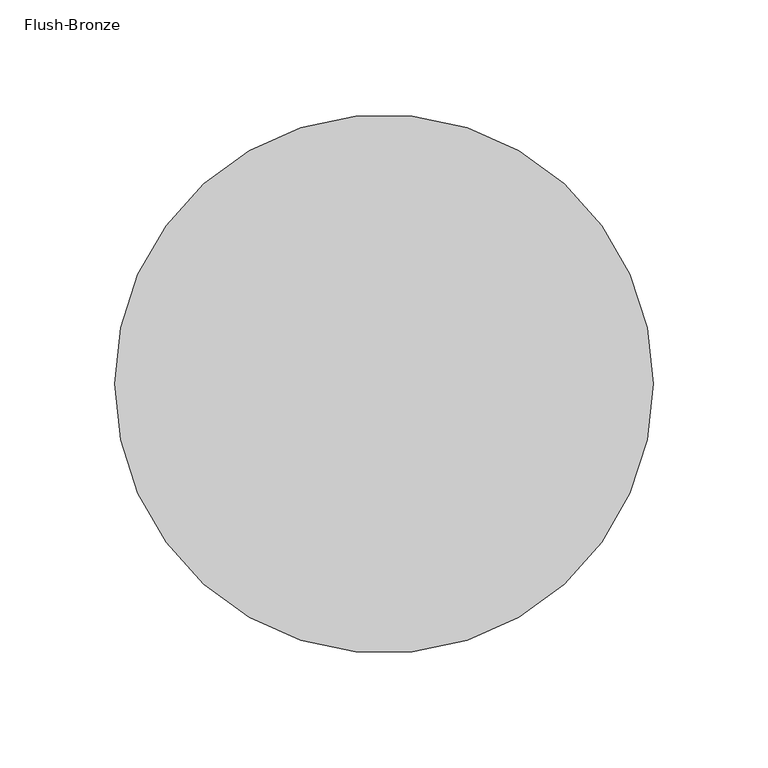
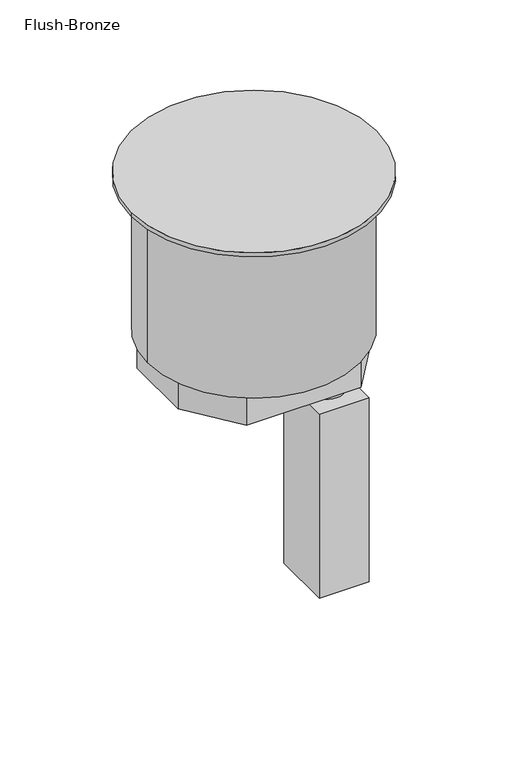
"""IFC4 building model written with IfcOpenShell, lengths in millimetres: proxy geometry, Poke_Thru_Device-Evolution_8AT_Series-Wiremold-Assembly : Flush-Bronze."""

from ifc_helpers import new_model, si_unit, point, frame, frame_2d, origin, origin_with_axes, origin_2d, place, context, project, spatial, polyline, circle_curve, trimmed, segment, composite_curve, outline, extrude, source, transform, mapped, element, save
from ifc_brep_helpers import plane_surface, cylinder_surface, revolved_surface, advanced_brep


def flush_bronze_83a69dee(model_context):
    return source(origin(), model_context, "Body", "SolidModel", [
        extrude(outline(composite_curve([segment(trimmed(circle_curve(origin_2d(), 117.475), [point((117.475, 0.0))], [point((-117.475, 0.0))], False, "CARTESIAN"), True, "CONTINUOUS"), segment(trimmed(circle_curve(origin_2d(), 117.475), [point((-117.475, 0.0))], [point((117.475, 0.0))], False, "CARTESIAN"), True, "CONTINUOUS")], self_intersect=False)), origin_with_axes(), (0.0, 0.0, 1.0), 4.318),
        advanced_brep(
        [(95.25, 0.0, -6.35), (-95.25, 0.0, -6.35), (-101.6, 0.0, -153.67), (101.6, 0.0, -153.67), (101.6, 0.0, -6.35), (-101.6, 0.0, -6.35), (-101.6, 0.0, 0.0), (101.6, 0.0, 0.0), (-95.25, 0.0, 0.0), (95.25, 0.0, 0.0)],
        [
            (0, 1, circle_curve(frame((0.0, 0.0, -6.35), z_axis=(0.0, 0.0, 1.0), x_axis=(1.0, 0.0, 0.0)), 95.25)),
            (1, 0, circle_curve(frame((0.0, 0.0, -6.35), z_axis=(0.0, 0.0, 1.0), x_axis=(1.0, 0.0, 0.0)), 95.25)),
            (2, 3, circle_curve(frame((0.0, 0.0, -153.67), z_axis=(0.0, 0.0, -1.0), x_axis=(1.0, 0.0, 0.0)), 101.6)),
            (3, 2, circle_curve(frame((0.0, 0.0, -153.67), z_axis=(0.0, 0.0, -1.0), x_axis=(1.0, 0.0, 0.0)), 101.6)),
            (3, 4),
            (4, 5, circle_curve(frame((0.0, 0.0, -6.35), z_axis=(0.0, 0.0, -1.0), x_axis=(1.0, 0.0, 0.0)), 101.6)),
            (5, 2),
            (5, 4, circle_curve(frame((0.0, 0.0, -6.35), z_axis=(0.0, 0.0, -1.0), x_axis=(1.0, 0.0, 0.0)), 101.6)),
            (6, 7, circle_curve(origin_with_axes(), 101.6)),
            (7, 6, circle_curve(origin_with_axes(), 101.6)),
            (8, 9, circle_curve(frame((0.0, 0.0, 0.0), z_axis=(0.0, 0.0, -1.0), x_axis=(1.0, 0.0, 0.0)), 95.25)),
            (9, 8, circle_curve(frame((0.0, 0.0, 0.0), z_axis=(0.0, 0.0, -1.0), x_axis=(1.0, 0.0, 0.0)), 95.25)),
            (6, 5),
            (4, 7),
            (8, 1),
            (0, 9),
        ],
        [
            plane_surface(frame((101.6, 0.0, -6.35), z_axis=(0.0, 0.0, 1.0), x_axis=(0.0, 1.0, 0.0))),
            plane_surface(frame((101.6, 0.0, -153.67), z_axis=(0.0, 0.0, -1.0), x_axis=(0.0, -1.0, 0.0))),
            cylinder_surface(frame((0.0, 0.0, -153.67), z_axis=(0.0, 0.0, 1.0), x_axis=(1.0, 0.0, 0.0)), 101.6),
            plane_surface(frame((101.6, 0.0, 0.0), z_axis=(0.0, 0.0, 1.0), x_axis=(0.0, 1.0, 0.0))),
            cylinder_surface(frame((0.0, 0.0, -6.35), z_axis=(0.0, 0.0, 1.0), x_axis=(1.0, 0.0, 0.0)), 101.6),
            revolved_surface(polyline([(95.25, 0.0, -6.35), (95.25, 0.0, 0.0)]), (0.0, 0.0, 0.0), (0.0, 0.0, -1.0)),
        ],
        [
            (0, [[1, 2]]),
            (1, [[3, 4]]),
            (2, [[-4, 5, 6, 7]]),
            (2, [[-3, -7, 8, -5]]),
            (3, [[9, 10], [11, 12]]),
            (4, [[-9, 13, -6, 14]]),
            (4, [[-10, -14, -8, -13]]),
            (5, [[-11, 15, -1, 16]]),
            (5, [[-12, -16, -2, -15]]),
        ],
    ),
        extrude(outline(polyline([(54.61, 82.55), (92.075, 34.036), (92.075, -34.036), (54.61, -82.55), (-54.61, -82.55), (-92.075, -34.036), (-92.075, 34.036), (-54.61, 82.55), (54.61, 82.55)])), frame((0.0, 0.0, -182.88), z_axis=(0.0, 0.0, 1.0), x_axis=(1.0, 0.0, 0.0)), (0.0, 0.0, 1.0), 29.21),
        extrude(outline(composite_curve([segment(trimmed(circle_curve(frame_2d((69.469, -0.229668)), 11.1252), [point((58.3438, -0.229668))], [point((80.5942, -0.229668))], False, "CARTESIAN"), True, "CONTINUOUS"), segment(trimmed(circle_curve(frame_2d((69.469, -0.229668)), 11.1252), [point((80.5942, -0.229668))], [point((58.3438, -0.229668))], False, "CARTESIAN"), True, "CONTINUOUS")], self_intersect=False)), frame((0.0, 0.0, -218.7956), z_axis=(0.0, 0.0, 1.0), x_axis=(1.0, 0.0, 0.0)), (0.0, 0.0, 1.0), 35.9156),
        extrude(outline(composite_curve([segment(trimmed(circle_curve(frame_2d((69.469, -0.229668)), 16.0528), [point((53.4162, -0.229668))], [point((85.5218, -0.229668))], False, "CARTESIAN"), True, "CONTINUOUS"), segment(trimmed(circle_curve(frame_2d((69.469, -0.229668)), 16.0528), [point((85.5218, -0.229668))], [point((53.4162, -0.229668))], False, "CARTESIAN"), True, "CONTINUOUS")], self_intersect=False)), frame((0.0, 0.0, -239.1156), z_axis=(0.0, 0.0, 1.0), x_axis=(1.0, 0.0, 0.0)), (0.0, 0.0, 1.0), 20.32),
        extrude(outline(polyline([(93.2688, 28.980332), (93.2688, -29.439668), (45.6692, -29.439668), (45.6692, 28.980332), (93.2688, 28.980332)])), frame((0.0, 0.0, -425.45), z_axis=(0.0, 0.0, 1.0), x_axis=(1.0, 0.0, 0.0)), (0.0, 0.0, 1.0), 186.3344),
    ])


if __name__ == "__main__":
    model = new_model("IFC4")
    model_context = context("Model", 3, world=origin())
    ifc_project = project(units=[si_unit("LENGTHUNIT", "METRE", prefix="MILLI")], contexts=[model_context])
    site = spatial("IfcSite", under=ifc_project)
    building = spatial("IfcBuilding", under=site)
    placement = place(None, origin())
    flush_bronze_shape = flush_bronze_83a69dee(model_context)
    element("IfcBuildingElementProxy", 1, Name="Poke_Thru_Device-Evolution_8AT_Series-Wiremold-Assembly : Flush-Bronze", ObjectType="Poke_Thru_Device-Evolution_8AT_Series-Wiremold-Assembly : Flush-Bronze", at=placement, inside=building, context=model_context, shape_type="MappedRepresentation", body=[
        mapped(flush_bronze_shape, transform((0.0, 0.0, 0.0), x_axis=(1.0, 0.0, 0.0), y_axis=(0.0, 1.0, 0.0), z_axis=(0.0, 0.0, 1.0))),
    ])
    save(model, "model.ifc")
